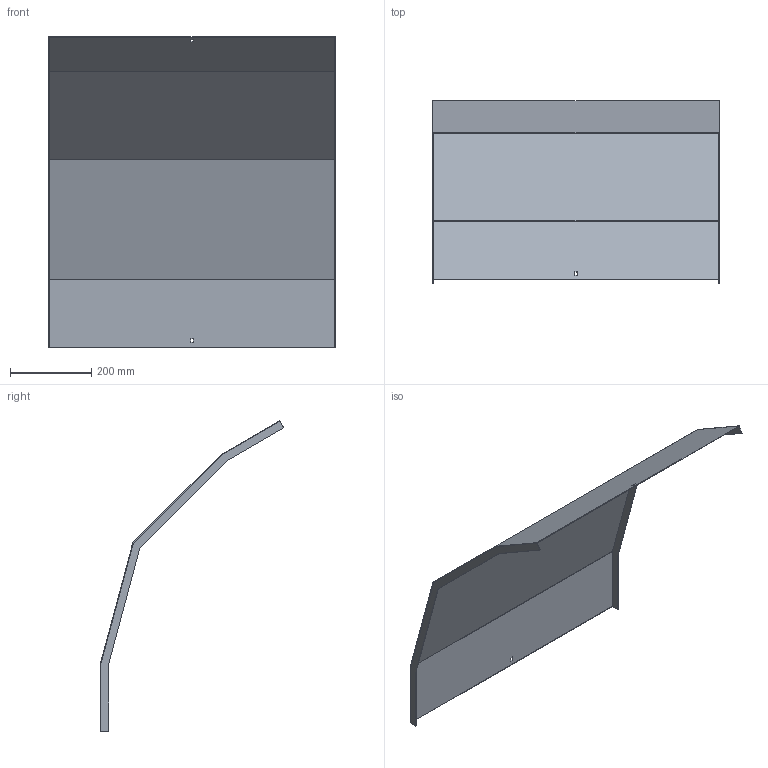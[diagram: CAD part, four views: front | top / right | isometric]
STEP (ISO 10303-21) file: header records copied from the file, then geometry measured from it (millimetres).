
FILE_DESCRIPTION (( 'STEP AP214' ), '1' );
FILE_NAME ('41N5D700.step', '2025-02-21T10:38:21', ( '' ), ( '' ), 'SwSTEP 2.0', 'SolidWorks 2023', '' );
FILE_SCHEMA (( 'AUTOMOTIVE_DESIGN' ));
Length unit declared in the file: millimetre
Products named in the file (1): 41N5D700
Bounding box: 703 x 449.97 x 762.06 mm (x, y, z)
Volume: 1047578 mm3; surface area: 1401858 mm2
Topology: 1 solids, 1 shells, 30 faces, 84 edges, 56 vertices
Faces by surface type: plane 30
Entity records: 979 total; most frequent: CARTESIAN_POINT 171, ORIENTED_EDGE 168, DIRECTION 146, EDGE_CURVE 84, LINE 84, VECTOR 84, VERTEX_POINT 56, EDGE_LOOP 34
